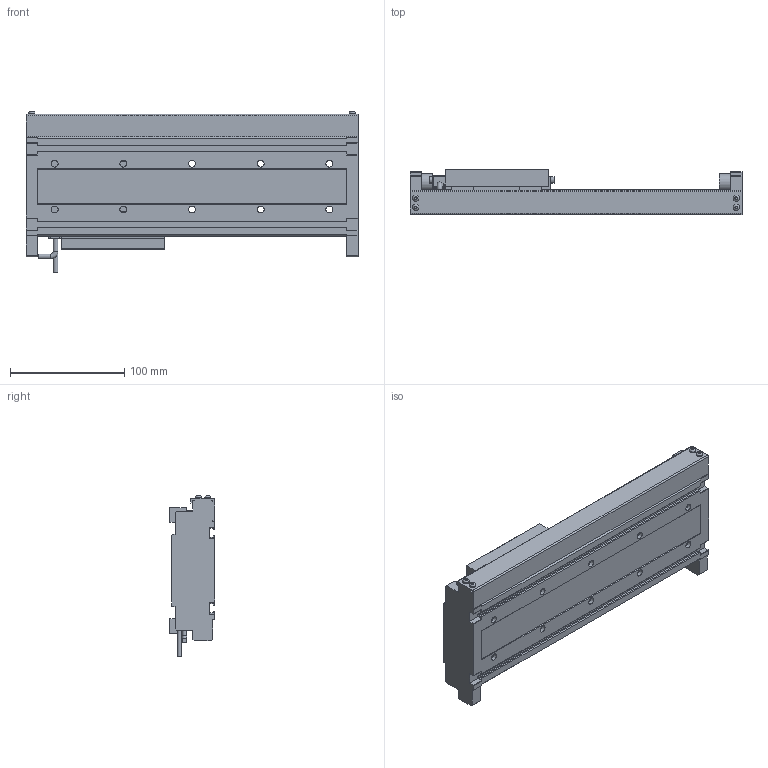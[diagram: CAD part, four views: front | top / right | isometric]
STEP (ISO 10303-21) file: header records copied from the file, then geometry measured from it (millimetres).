
FILE_DESCRIPTION(/* description */ ('STEP AP214'),/* implementation_level */ '2;1');
FILE_NAME(/* name */ 'GLM10-S-0090-R05K-N-TDP20-N-N-N-N-04(1270S00)',/* time_stamp */ '2025-09-17T19:28:17+02:00',/* author */ ('License CC BY-ND 4.0'),/* organization */ ('CADENAS'),/* preprocessor_version */ 'ST-DEVELOPER v19.3',/* originating_system */ 'PARTsolutions',/* authorisation */ ' ');
FILE_SCHEMA (('AUTOMOTIVE_DESIGN {1 0 10303 214 3 1 1}'));
Length unit declared in the file: millimetre
Products named in the file (3): GLM10-S-0090-R05K-N-TDP20-N-N-N-N-04(1270S00); GLM10-027-S-EP-N-N(127000)-b; GLM10-027-S-EP-N-N-N(1270)-s
Assembly tree (2 placements, depth 2):
  GLM10-S-0090-R05K-N-TDP20-N-N-N-N-04(1270S00)
    GLM10-027-S-EP-N-N(127000)-b
    GLM10-027-S-EP-N-N-N(1270)-s
Bounding box: 290 x 40 x 140.5 mm (x, y, z)
Volume: 604300.4 mm3; surface area: 172948.9 mm2
Topology: 2 solids, 2 shells, 501 faces, 1359 edges, 873 vertices
Faces by surface type: plane 432, cylinder 52, torus 9, cone 8
Full cylindrical faces by diameter (mm): 4 x1, 4.134 x4, 4.2 x4, 5.5 x8, 6 x10, 10 x10, 15 x2
Entity records: 15192 total; most frequent: CARTESIAN_POINT 2655, ORIENTED_EDGE 2570, DIRECTION 2470, EDGE_CURVE 1285, LINE 1104, VECTOR 1104, VERTEX_POINT 859, AXIS2_PLACEMENT_3D 683
